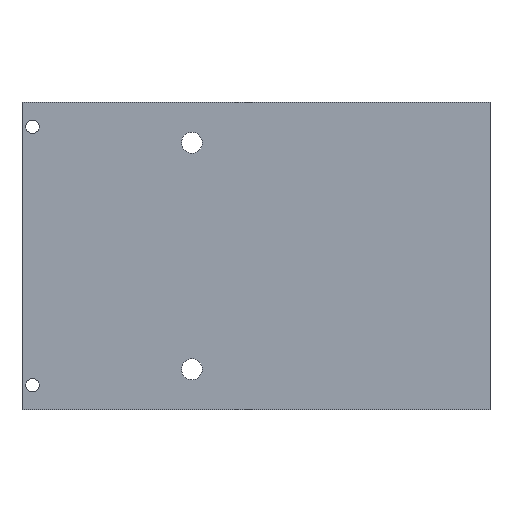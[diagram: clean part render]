
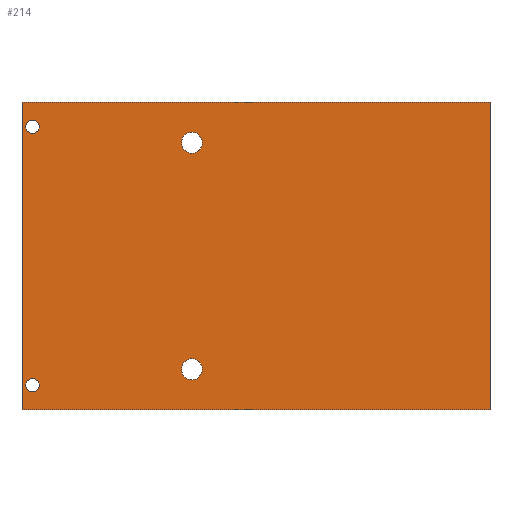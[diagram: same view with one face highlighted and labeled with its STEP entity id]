
A CAD part, top view. The second image highlights one B-rep face of the part: STEP entity #214.
In plain terms, the highlighted planar face has unit normal (0, 0, 1).
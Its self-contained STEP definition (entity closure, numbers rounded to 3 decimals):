
#30=FACE_BOUND('',#63,.T.);
#31=FACE_BOUND('',#64,.T.);
#32=FACE_BOUND('',#65,.T.);
#33=FACE_BOUND('',#66,.T.);
#42=PLANE('',#252);
#52=FACE_OUTER_BOUND('',#62,.T.);
#62=EDGE_LOOP('',(#186,#187,#188,#189));
#63=EDGE_LOOP('',(#190));
#64=EDGE_LOOP('',(#191));
#65=EDGE_LOOP('',(#192));
#66=EDGE_LOOP('',(#193));
#76=LINE('',#342,#92);
#80=LINE('',#350,#96);
#83=LINE('',#356,#99);
#86=LINE('',#361,#102);
#92=VECTOR('',#288,10.);
#96=VECTOR('',#294,10.);
#99=VECTOR('',#299,10.);
#102=VECTOR('',#304,10.);
#104=CIRCLE('',#237,2.95);
#106=CIRCLE('',#240,2.95);
#109=CIRCLE('',#244,1.9);
#111=CIRCLE('',#247,1.9);
#114=VERTEX_POINT('',#316);
#116=VERTEX_POINT('',#322);
#119=VERTEX_POINT('',#330);
#121=VERTEX_POINT('',#336);
#122=VERTEX_POINT('',#340);
#123=VERTEX_POINT('',#341);
#126=VERTEX_POINT('',#349);
#128=VERTEX_POINT('',#355);
#130=EDGE_CURVE('',#114,#114,#104,.T.);
#133=EDGE_CURVE('',#116,#116,#106,.T.);
#138=EDGE_CURVE('',#119,#119,#109,.T.);
#141=EDGE_CURVE('',#121,#121,#111,.T.);
#142=EDGE_CURVE('',#122,#123,#76,.T.);
#146=EDGE_CURVE('',#123,#126,#80,.T.);
#149=EDGE_CURVE('',#126,#128,#83,.T.);
#152=EDGE_CURVE('',#128,#122,#86,.T.);
#186=ORIENTED_EDGE('',*,*,#152,.T.);
#187=ORIENTED_EDGE('',*,*,#142,.T.);
#188=ORIENTED_EDGE('',*,*,#146,.T.);
#189=ORIENTED_EDGE('',*,*,#149,.T.);
#190=ORIENTED_EDGE('',*,*,#130,.T.);
#191=ORIENTED_EDGE('',*,*,#133,.T.);
#192=ORIENTED_EDGE('',*,*,#141,.T.);
#193=ORIENTED_EDGE('',*,*,#138,.T.);
#214=ADVANCED_FACE('',(#52,#30,#31,#32,#33),#42,.T.);
#237=AXIS2_PLACEMENT_3D('',#317,#260,#261);
#240=AXIS2_PLACEMENT_3D('',#323,#267,#268);
#244=AXIS2_PLACEMENT_3D('',#332,#277,#278);
#247=AXIS2_PLACEMENT_3D('',#338,#284,#285);
#252=AXIS2_PLACEMENT_3D('',#363,#306,#307);
#260=DIRECTION('center_axis',(0.,0.,-1.));
#261=DIRECTION('ref_axis',(1.,0.,0.));
#267=DIRECTION('center_axis',(0.,0.,-1.));
#268=DIRECTION('ref_axis',(1.,0.,0.));
#277=DIRECTION('center_axis',(0.,0.,-1.));
#278=DIRECTION('ref_axis',(-1.,0.,0.));
#284=DIRECTION('center_axis',(0.,0.,-1.));
#285=DIRECTION('ref_axis',(-1.,0.,0.));
#288=DIRECTION('',(0.,-1.,0.));
#294=DIRECTION('',(1.,0.,0.));
#299=DIRECTION('',(0.,1.,0.));
#304=DIRECTION('',(-1.,0.,0.));
#306=DIRECTION('center_axis',(0.,0.,1.));
#307=DIRECTION('ref_axis',(1.,0.,0.));
#316=CARTESIAN_POINT('',(-21.05,32.,0.));
#317=CARTESIAN_POINT('Origin',(-18.1,32.,0.));
#322=CARTESIAN_POINT('',(-21.05,-32.,0.));
#323=CARTESIAN_POINT('Origin',(-18.1,-32.,0.));
#330=CARTESIAN_POINT('',(-61.2,-36.5,0.));
#332=CARTESIAN_POINT('Origin',(-63.1,-36.5,0.));
#336=CARTESIAN_POINT('',(-61.2,36.5,0.));
#338=CARTESIAN_POINT('Origin',(-63.1,36.5,0.));
#340=CARTESIAN_POINT('',(-66.1,43.5,0.));
#341=CARTESIAN_POINT('',(-66.1,-43.5,0.));
#342=CARTESIAN_POINT('',(-66.1,43.5,0.));
#349=CARTESIAN_POINT('',(66.1,-43.5,0.));
#350=CARTESIAN_POINT('',(-66.1,-43.5,0.));
#355=CARTESIAN_POINT('',(66.1,43.5,0.));
#356=CARTESIAN_POINT('',(66.1,-43.5,0.));
#361=CARTESIAN_POINT('',(66.1,43.5,0.));
#363=CARTESIAN_POINT('Origin',(0.,0.,0.));
